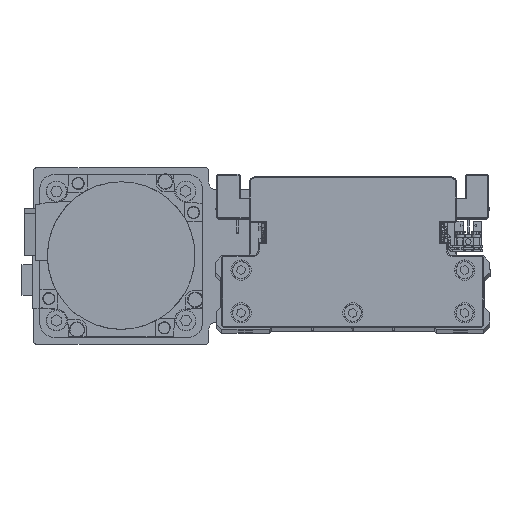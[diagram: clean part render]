
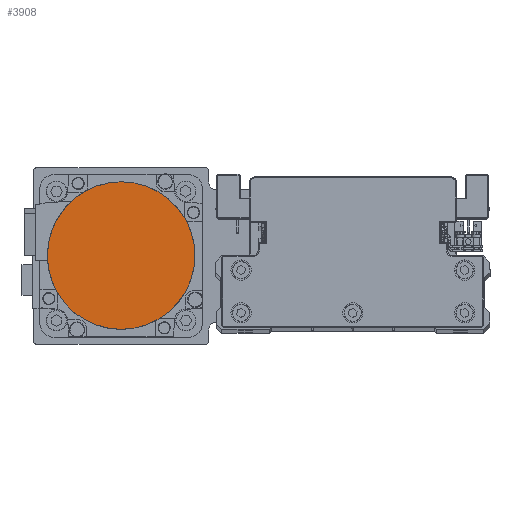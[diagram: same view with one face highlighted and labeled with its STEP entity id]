
A CAD part, top view. The second image highlights one B-rep face of the part: STEP entity #3908.
In plain terms, the highlighted planar face has unit normal (0, 0, 1) as drawn and (0, 0, -1) by its records, which use the part's own axes.
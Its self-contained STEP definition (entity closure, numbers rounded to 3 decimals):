
#3304 = CIRCLE ( 'NONE', #26281, 36.3 ) ;
#3824 = DIRECTION ( 'NONE',  ( 1., 0., 0. ) ) ;
#3908 = ADVANCED_FACE ( 'NONE', ( #35059 ), #6890, .F. ) ;
#6816 = EDGE_LOOP ( 'NONE', ( #40213, #12422 ) ) ;
#6890 = PLANE ( 'NONE',  #11636 ) ;
#7977 = DIRECTION ( 'NONE',  ( 0., 1., 0. ) ) ;
#8959 = DIRECTION ( 'NONE',  ( 0., -1., 0. ) ) ;
#10867 = CARTESIAN_POINT ( 'NONE',  ( 0., -36.3, -122.2 ) ) ;
#11636 = AXIS2_PLACEMENT_3D ( 'NONE', #19414, #31974, #3824 ) ;
#12422 = ORIENTED_EDGE ( 'NONE', *, *, #27343, .F. ) ;
#19414 = CARTESIAN_POINT ( 'NONE',  ( 0., 0., -122.2 ) ) ;
#22552 = AXIS2_PLACEMENT_3D ( 'NONE', #23590, #36135, #7977 ) ;
#23590 = CARTESIAN_POINT ( 'NONE',  ( 0., 0., -122.2 ) ) ;
#24580 = CARTESIAN_POINT ( 'NONE',  ( 0., 0., -122.2 ) ) ;
#25472 = VERTEX_POINT ( 'NONE', #10867 ) ;
#25782 = VERTEX_POINT ( 'NONE', #38382 ) ;
#26281 = AXIS2_PLACEMENT_3D ( 'NONE', #24580, #37113, #8959 ) ;
#27343 = EDGE_CURVE ( 'NONE', #25472, #25782, #3304, .T. ) ;
#31462 = EDGE_CURVE ( 'NONE', #25782, #25472, #40265, .T. ) ;
#31974 = DIRECTION ( 'NONE',  ( 0., 0., 1. ) ) ;
#35059 = FACE_OUTER_BOUND ( 'NONE', #6816, .T. ) ;
#36135 = DIRECTION ( 'NONE',  ( 0., 0., 1. ) ) ;
#37113 = DIRECTION ( 'NONE',  ( 0., 0., 1. ) ) ;
#38382 = CARTESIAN_POINT ( 'NONE',  ( 0., 36.3, -122.2 ) ) ;
#40213 = ORIENTED_EDGE ( 'NONE', *, *, #31462, .F. ) ;
#40265 = CIRCLE ( 'NONE', #22552, 36.3 ) ;
